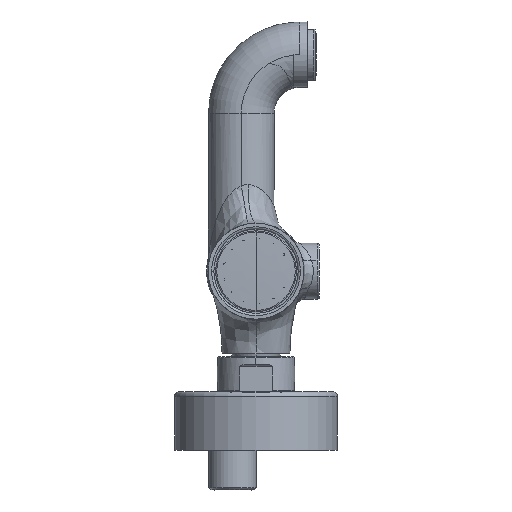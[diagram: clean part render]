
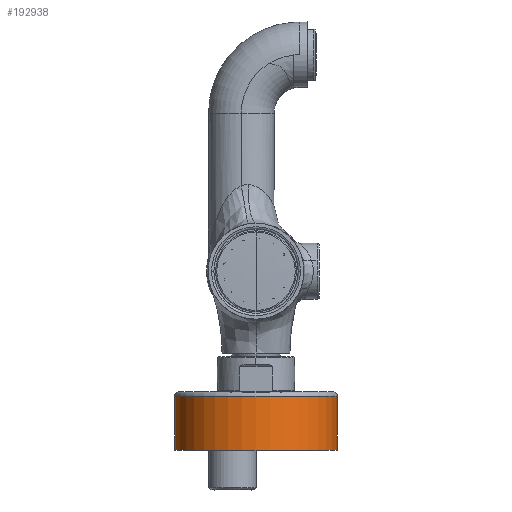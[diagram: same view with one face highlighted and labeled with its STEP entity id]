
A CAD part, left-side view. The second image highlights one B-rep face of the part: STEP entity #192938.
In plain terms, the highlighted cylindrical face has radius 34.75 mm (diameter 69.5 mm), a partial arc.
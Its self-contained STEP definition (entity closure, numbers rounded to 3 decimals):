
#41964=CARTESIAN_POINT('',(-75.,-15.3,-76.5));
#41965=DIRECTION('',(0.,0.,1.));
#41966=DIRECTION('',(0.,1.,0.));
#41967=AXIS2_PLACEMENT_3D('',#41964,#41965,#41966);
#41969=DIRECTION('',(0.,0.,-1.));
#41970=VECTOR('',#41969,23.);
#41971=CARTESIAN_POINT('',(-75.,19.45,-53.5));
#41972=LINE('',#41971,#41970);
#41973=DIRECTION('',(0.,0.,-1.));
#41974=VECTOR('',#41973,23.);
#41975=CARTESIAN_POINT('',(-75.,-50.05,-53.5));
#41976=LINE('',#41975,#41974);
#41982=CARTESIAN_POINT('',(-75.,-15.3,-53.5));
#41983=DIRECTION('',(0.,0.,1.));
#41984=DIRECTION('',(0.,1.,0.));
#41985=AXIS2_PLACEMENT_3D('',#41982,#41983,#41984);
#145739=CARTESIAN_POINT('',(-75.,19.45,-53.5));
#145741=VERTEX_POINT('',#145739);
#145742=CARTESIAN_POINT('',(-75.,19.45,-76.5));
#145743=VERTEX_POINT('',#145742);
#145757=CARTESIAN_POINT('',(-75.,-50.05,-53.5));
#145759=VERTEX_POINT('',#145757);
#145760=CARTESIAN_POINT('',(-75.,-50.05,-76.5));
#145761=VERTEX_POINT('',#145760);
#192926=CARTESIAN_POINT('',(-75.,-15.3,-77.75));
#192927=DIRECTION('',(0.,0.,1.));
#192928=DIRECTION('',(0.,-1.,0.));
#192929=AXIS2_PLACEMENT_3D('',#192926,#192927,#192928);
#192930=CYLINDRICAL_SURFACE('',#192929,34.75);
#192931=ORIENTED_EDGE('',*,*,#192916,.F.);
#192933=ORIENTED_EDGE('',*,*,#192932,.T.);
#192934=ORIENTED_EDGE('',*,*,#192919,.T.);
#192935=ORIENTED_EDGE('',*,*,#192902,.F.);
#192936=EDGE_LOOP('',(#192931,#192933,#192934,#192935));
#192937=FACE_OUTER_BOUND('',#192936,.F.);
#192938=ADVANCED_FACE('',(#192937),#192930,.T.);
#41968=CIRCLE('',#41967,34.75);
#41986=CIRCLE('',#41985,34.75);
#192902=EDGE_CURVE('',#145743,#145761,#41968,.T.);
#192916=EDGE_CURVE('',#145741,#145743,#41972,.T.);
#192919=EDGE_CURVE('',#145759,#145761,#41976,.T.);
#192932=EDGE_CURVE('',#145741,#145759,#41986,.T.);
